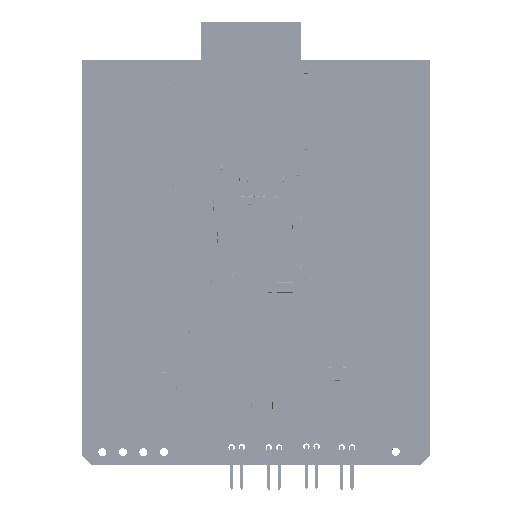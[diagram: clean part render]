
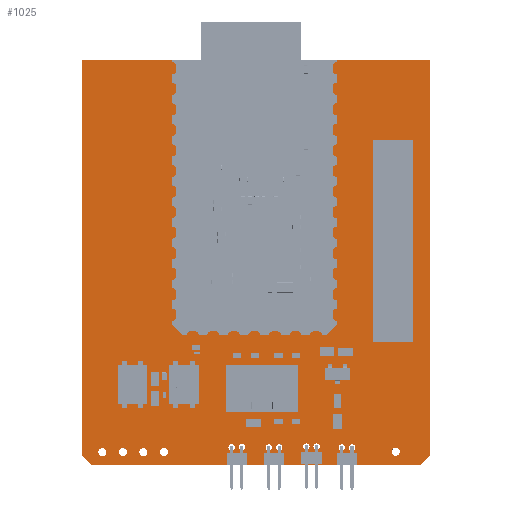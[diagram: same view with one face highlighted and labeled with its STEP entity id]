
A CAD part, top view. The second image highlights one B-rep face of the part: STEP entity #1025.
In plain terms, the highlighted planar face has unit normal (0, 0, 1).
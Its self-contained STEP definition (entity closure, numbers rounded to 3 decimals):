
#260 = VERTEX_POINT('',#261);
#261 = CARTESIAN_POINT('',(0.,0.852,1.6));
#267 = EDGE_CURVE('',#260,#268,#270,.T.);
#268 = VERTEX_POINT('',#269);
#269 = CARTESIAN_POINT('',(1.134,-0.267,1.6));
#270 = LINE('',#271,#272);
#271 = CARTESIAN_POINT('',(0.,0.852,1.6));
#272 = VECTOR('',#273,1.);
#273 = DIRECTION('',(0.712,-0.702,0.));
#298 = EDGE_CURVE('',#268,#299,#301,.T.);
#299 = VERTEX_POINT('',#300);
#300 = CARTESIAN_POINT('',(41.86,-0.267,1.6));
#301 = LINE('',#302,#303);
#302 = CARTESIAN_POINT('',(1.134,-0.267,1.6));
#303 = VECTOR('',#304,1.);
#304 = DIRECTION('',(1.,0.,0.));
#329 = EDGE_CURVE('',#299,#330,#332,.T.);
#330 = VERTEX_POINT('',#331);
#331 = CARTESIAN_POINT('',(43.,0.868,1.6));
#332 = LINE('',#333,#334);
#333 = CARTESIAN_POINT('',(41.86,-0.267,1.6));
#334 = VECTOR('',#335,1.);
#335 = DIRECTION('',(0.709,0.706,0.));
#360 = EDGE_CURVE('',#330,#361,#363,.T.);
#361 = VERTEX_POINT('',#362);
#362 = CARTESIAN_POINT('',(42.994,49.733,1.6));
#363 = LINE('',#364,#365);
#364 = CARTESIAN_POINT('',(43.,0.868,1.6));
#365 = VECTOR('',#366,1.);
#366 = DIRECTION('',(0.,1.,0.));
#391 = EDGE_CURVE('',#361,#392,#394,.T.);
#392 = VERTEX_POINT('',#393);
#393 = CARTESIAN_POINT('',(0.044,49.733,1.6));
#394 = LINE('',#395,#396);
#395 = CARTESIAN_POINT('',(42.994,49.733,1.6));
#396 = VECTOR('',#397,1.);
#397 = DIRECTION('',(-1.,0.,0.));
#422 = EDGE_CURVE('',#392,#423,#425,.T.);
#423 = VERTEX_POINT('',#424);
#424 = CARTESIAN_POINT('',(0.,49.689,1.6));
#425 = LINE('',#426,#427);
#426 = CARTESIAN_POINT('',(0.044,49.733,1.6));
#427 = VECTOR('',#428,1.);
#428 = DIRECTION('',(-0.707,-0.707,0.));
#453 = EDGE_CURVE('',#423,#260,#454,.T.);
#454 = LINE('',#455,#456);
#455 = CARTESIAN_POINT('',(0.,49.689,1.6));
#456 = VECTOR('',#457,1.);
#457 = DIRECTION('',(0.,-1.,0.));
#477 = VERTEX_POINT('',#478);
#478 = CARTESIAN_POINT('',(3.,1.27,1.6));
#484 = EDGE_CURVE('',#477,#477,#485,.T.);
#485 = CIRCLE('',#486,0.5);
#486 = AXIS2_PLACEMENT_3D('',#487,#488,#489);
#487 = CARTESIAN_POINT('',(2.5,1.27,1.6));
#488 = DIRECTION('',(0.,0.,1.));
#489 = DIRECTION('',(1.,0.,-0.));
#510 = VERTEX_POINT('',#511);
#511 = CARTESIAN_POINT('',(8.08,1.27,1.6));
#517 = EDGE_CURVE('',#510,#510,#518,.T.);
#518 = CIRCLE('',#519,0.5);
#519 = AXIS2_PLACEMENT_3D('',#520,#521,#522);
#520 = CARTESIAN_POINT('',(7.58,1.27,1.6));
#521 = DIRECTION('',(0.,0.,1.));
#522 = DIRECTION('',(1.,0.,-0.));
#543 = VERTEX_POINT('',#544);
#544 = CARTESIAN_POINT('',(5.54,1.27,1.6));
#550 = EDGE_CURVE('',#543,#543,#551,.T.);
#551 = CIRCLE('',#552,0.5);
#552 = AXIS2_PLACEMENT_3D('',#553,#554,#555);
#553 = CARTESIAN_POINT('',(5.04,1.27,1.6));
#554 = DIRECTION('',(0.,0.,1.));
#555 = DIRECTION('',(1.,0.,-0.));
#576 = VERTEX_POINT('',#577);
#577 = CARTESIAN_POINT('',(10.62,1.27,1.6));
#583 = EDGE_CURVE('',#576,#576,#584,.T.);
#584 = CIRCLE('',#585,0.5);
#585 = AXIS2_PLACEMENT_3D('',#586,#587,#588);
#586 = CARTESIAN_POINT('',(10.12,1.27,1.6));
#587 = DIRECTION('',(0.,0.,1.));
#588 = DIRECTION('',(1.,0.,-0.));
#609 = VERTEX_POINT('',#610);
#610 = CARTESIAN_POINT('',(18.888,1.879,1.6));
#616 = EDGE_CURVE('',#609,#609,#617,.T.);
#617 = CIRCLE('',#618,0.4);
#618 = AXIS2_PLACEMENT_3D('',#619,#620,#621);
#619 = CARTESIAN_POINT('',(18.488,1.879,1.6));
#620 = DIRECTION('',(0.,0.,1.));
#621 = DIRECTION('',(1.,0.,-0.));
#642 = VERTEX_POINT('',#643);
#643 = CARTESIAN_POINT('',(20.158,1.879,1.6));
#649 = EDGE_CURVE('',#642,#642,#650,.T.);
#650 = CIRCLE('',#651,0.4);
#651 = AXIS2_PLACEMENT_3D('',#652,#653,#654);
#652 = CARTESIAN_POINT('',(19.758,1.879,1.6));
#653 = DIRECTION('',(0.,0.,1.));
#654 = DIRECTION('',(1.,0.,-0.));
#675 = VERTEX_POINT('',#676);
#676 = CARTESIAN_POINT('',(19.532,9.127,1.6));
#682 = EDGE_CURVE('',#675,#675,#683,.T.);
#683 = CIRCLE('',#684,0.5);
#684 = AXIS2_PLACEMENT_3D('',#685,#686,#687);
#685 = CARTESIAN_POINT('',(19.032,9.127,1.6));
#686 = DIRECTION('',(0.,0.,1.));
#687 = DIRECTION('',(1.,0.,-0.));
#708 = VERTEX_POINT('',#709);
#709 = CARTESIAN_POINT('',(32.504,1.842,1.6));
#715 = EDGE_CURVE('',#708,#708,#716,.T.);
#716 = CIRCLE('',#717,0.4);
#717 = AXIS2_PLACEMENT_3D('',#718,#719,#720);
#718 = CARTESIAN_POINT('',(32.104,1.842,1.6));
#719 = DIRECTION('',(0.,0.,1.));
#720 = DIRECTION('',(1.,0.,-0.));
#741 = VERTEX_POINT('',#742);
#742 = CARTESIAN_POINT('',(24.763,1.859,1.6));
#748 = EDGE_CURVE('',#741,#741,#749,.T.);
#749 = CIRCLE('',#750,0.4);
#750 = AXIS2_PLACEMENT_3D('',#751,#752,#753);
#751 = CARTESIAN_POINT('',(24.363,1.859,1.6));
#752 = DIRECTION('',(0.,0.,1.));
#753 = DIRECTION('',(1.,0.,-0.));
#774 = VERTEX_POINT('',#775);
#775 = CARTESIAN_POINT('',(39.292,1.327,1.6));
#781 = EDGE_CURVE('',#774,#774,#782,.T.);
#782 = CIRCLE('',#783,0.5);
#783 = AXIS2_PLACEMENT_3D('',#784,#785,#786);
#784 = CARTESIAN_POINT('',(38.792,1.327,1.6));
#785 = DIRECTION('',(0.,0.,1.));
#786 = DIRECTION('',(1.,0.,-0.));
#807 = VERTEX_POINT('',#808);
#808 = CARTESIAN_POINT('',(33.774,1.842,1.6));
#814 = EDGE_CURVE('',#807,#807,#815,.T.);
#815 = CIRCLE('',#816,0.4);
#816 = AXIS2_PLACEMENT_3D('',#817,#818,#819);
#817 = CARTESIAN_POINT('',(33.374,1.842,1.6));
#818 = DIRECTION('',(0.,0.,1.));
#819 = DIRECTION('',(1.,0.,-0.));
#840 = VERTEX_POINT('',#841);
#841 = CARTESIAN_POINT('',(23.493,1.859,1.6));
#847 = EDGE_CURVE('',#840,#840,#848,.T.);
#848 = CIRCLE('',#849,0.4);
#849 = AXIS2_PLACEMENT_3D('',#850,#851,#852);
#850 = CARTESIAN_POINT('',(23.093,1.859,1.6));
#851 = DIRECTION('',(0.,0.,1.));
#852 = DIRECTION('',(1.,0.,-0.));
#873 = VERTEX_POINT('',#874);
#874 = CARTESIAN_POINT('',(25.882,9.127,1.6));
#880 = EDGE_CURVE('',#873,#873,#881,.T.);
#881 = CIRCLE('',#882,0.5);
#882 = AXIS2_PLACEMENT_3D('',#883,#884,#885);
#883 = CARTESIAN_POINT('',(25.382,9.127,1.6));
#884 = DIRECTION('',(0.,0.,1.));
#885 = DIRECTION('',(1.,0.,-0.));
#906 = VERTEX_POINT('',#907);
#907 = CARTESIAN_POINT('',(29.395,1.958,1.6));
#913 = EDGE_CURVE('',#906,#906,#914,.T.);
#914 = CIRCLE('',#915,0.4);
#915 = AXIS2_PLACEMENT_3D('',#916,#917,#918);
#916 = CARTESIAN_POINT('',(28.995,1.958,1.6));
#917 = DIRECTION('',(0.,0.,1.));
#918 = DIRECTION('',(1.,0.,-0.));
#939 = VERTEX_POINT('',#940);
#940 = CARTESIAN_POINT('',(28.125,1.958,1.6));
#946 = EDGE_CURVE('',#939,#939,#947,.T.);
#947 = CIRCLE('',#948,0.4);
#948 = AXIS2_PLACEMENT_3D('',#949,#950,#951);
#949 = CARTESIAN_POINT('',(27.725,1.958,1.6));
#950 = DIRECTION('',(0.,0.,1.));
#951 = DIRECTION('',(1.,0.,-0.));
#1025 = ADVANCED_FACE('',(#1026,#1035,#1038,#1041,#1044,#1047,#1050,
    #1053,#1056,#1059,#1062,#1065,#1068,#1071,#1074,#1077),#1080,.T.);
#1026 = FACE_BOUND('',#1027,.T.);
#1027 = EDGE_LOOP('',(#1028,#1029,#1030,#1031,#1032,#1033,#1034));
#1028 = ORIENTED_EDGE('',*,*,#267,.T.);
#1029 = ORIENTED_EDGE('',*,*,#298,.T.);
#1030 = ORIENTED_EDGE('',*,*,#329,.T.);
#1031 = ORIENTED_EDGE('',*,*,#360,.T.);
#1032 = ORIENTED_EDGE('',*,*,#391,.T.);
#1033 = ORIENTED_EDGE('',*,*,#422,.T.);
#1034 = ORIENTED_EDGE('',*,*,#453,.T.);
#1035 = FACE_BOUND('',#1036,.T.);
#1036 = EDGE_LOOP('',(#1037));
#1037 = ORIENTED_EDGE('',*,*,#484,.F.);
#1038 = FACE_BOUND('',#1039,.T.);
#1039 = EDGE_LOOP('',(#1040));
#1040 = ORIENTED_EDGE('',*,*,#517,.F.);
#1041 = FACE_BOUND('',#1042,.T.);
#1042 = EDGE_LOOP('',(#1043));
#1043 = ORIENTED_EDGE('',*,*,#550,.F.);
#1044 = FACE_BOUND('',#1045,.T.);
#1045 = EDGE_LOOP('',(#1046));
#1046 = ORIENTED_EDGE('',*,*,#583,.F.);
#1047 = FACE_BOUND('',#1048,.T.);
#1048 = EDGE_LOOP('',(#1049));
#1049 = ORIENTED_EDGE('',*,*,#616,.F.);
#1050 = FACE_BOUND('',#1051,.T.);
#1051 = EDGE_LOOP('',(#1052));
#1052 = ORIENTED_EDGE('',*,*,#649,.F.);
#1053 = FACE_BOUND('',#1054,.T.);
#1054 = EDGE_LOOP('',(#1055));
#1055 = ORIENTED_EDGE('',*,*,#682,.F.);
#1056 = FACE_BOUND('',#1057,.T.);
#1057 = EDGE_LOOP('',(#1058));
#1058 = ORIENTED_EDGE('',*,*,#715,.F.);
#1059 = FACE_BOUND('',#1060,.T.);
#1060 = EDGE_LOOP('',(#1061));
#1061 = ORIENTED_EDGE('',*,*,#748,.F.);
#1062 = FACE_BOUND('',#1063,.T.);
#1063 = EDGE_LOOP('',(#1064));
#1064 = ORIENTED_EDGE('',*,*,#781,.F.);
#1065 = FACE_BOUND('',#1066,.T.);
#1066 = EDGE_LOOP('',(#1067));
#1067 = ORIENTED_EDGE('',*,*,#814,.F.);
#1068 = FACE_BOUND('',#1069,.T.);
#1069 = EDGE_LOOP('',(#1070));
#1070 = ORIENTED_EDGE('',*,*,#847,.F.);
#1071 = FACE_BOUND('',#1072,.T.);
#1072 = EDGE_LOOP('',(#1073));
#1073 = ORIENTED_EDGE('',*,*,#880,.F.);
#1074 = FACE_BOUND('',#1075,.T.);
#1075 = EDGE_LOOP('',(#1076));
#1076 = ORIENTED_EDGE('',*,*,#913,.F.);
#1077 = FACE_BOUND('',#1078,.T.);
#1078 = EDGE_LOOP('',(#1079));
#1079 = ORIENTED_EDGE('',*,*,#946,.F.);
#1080 = PLANE('',#1081);
#1081 = AXIS2_PLACEMENT_3D('',#1082,#1083,#1084);
#1082 = CARTESIAN_POINT('',(21.501,24.911,1.6));
#1083 = DIRECTION('',(0.,0.,1.));
#1084 = DIRECTION('',(1.,0.,-0.));
